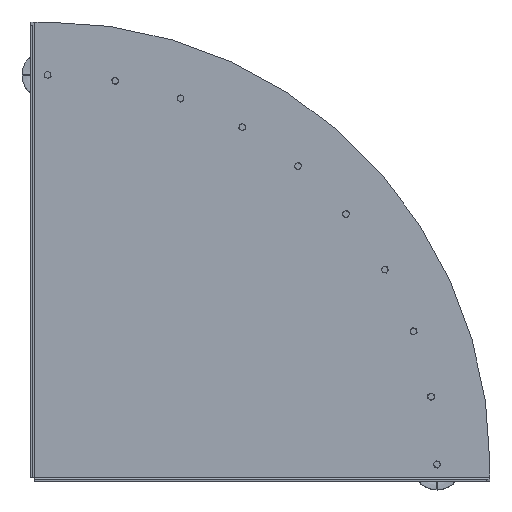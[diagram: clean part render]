
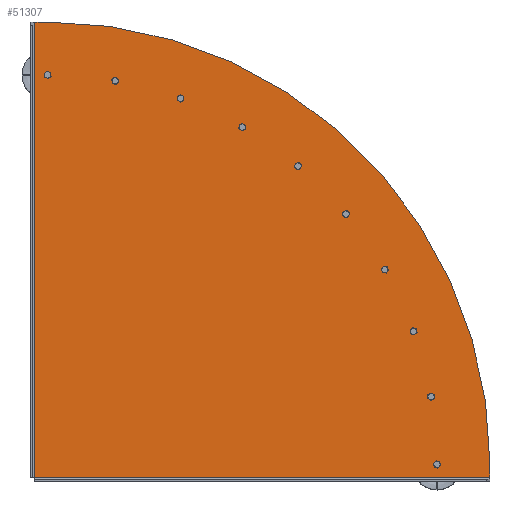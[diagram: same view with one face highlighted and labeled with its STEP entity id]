
A CAD part, top view. The second image highlights one B-rep face of the part: STEP entity #51307.
In plain terms, the highlighted planar face has unit normal (0, 0, 1).
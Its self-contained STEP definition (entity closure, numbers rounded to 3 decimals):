
#4380=LINE('',#74270,#6398);
#4393=LINE('',#74303,#6411);
#4401=LINE('',#74326,#6419);
#4402=LINE('',#74328,#6420);
#6398=VECTOR('',#61323,38.);
#6411=VECTOR('',#61362,1358.);
#6419=VECTOR('',#61394,1358.);
#6420=VECTOR('',#61397,38.);
#8418=PLANE('',#54947);
#10050=FACE_BOUND('',#14253,.T.);
#10051=FACE_BOUND('',#14254,.T.);
#10052=FACE_BOUND('',#14255,.T.);
#10053=FACE_BOUND('',#14256,.T.);
#10054=FACE_BOUND('',#14257,.T.);
#10055=FACE_BOUND('',#14258,.T.);
#10056=FACE_BOUND('',#14259,.T.);
#10057=FACE_BOUND('',#14260,.T.);
#10058=FACE_BOUND('',#14261,.T.);
#10059=FACE_BOUND('',#14262,.T.);
#10879=FACE_OUTER_BOUND('',#14252,.T.);
#14252=EDGE_LOOP('',(#34494,#34495,#34496,#34497,#34498));
#14253=EDGE_LOOP('',(#34499));
#14254=EDGE_LOOP('',(#34500));
#14255=EDGE_LOOP('',(#34501));
#14256=EDGE_LOOP('',(#34502));
#14257=EDGE_LOOP('',(#34503));
#14258=EDGE_LOOP('',(#34504));
#14259=EDGE_LOOP('',(#34505));
#14260=EDGE_LOOP('',(#34506));
#14261=EDGE_LOOP('',(#34507));
#14262=EDGE_LOOP('',(#34508));
#17571=CIRCLE('',#54889,6.5);
#17573=CIRCLE('',#54892,6.5);
#17575=CIRCLE('',#54895,6.5);
#17577=CIRCLE('',#54898,6.5);
#17579=CIRCLE('',#54901,6.5);
#17581=CIRCLE('',#54904,6.5);
#17583=CIRCLE('',#54907,6.5);
#17585=CIRCLE('',#54910,6.5);
#17587=CIRCLE('',#54913,6.5);
#17589=CIRCLE('',#54916,6.5);
#17590=CIRCLE('',#54918,1320.);
#20581=VERTEX_POINT('',#74209);
#20583=VERTEX_POINT('',#74214);
#20585=VERTEX_POINT('',#74219);
#20587=VERTEX_POINT('',#74224);
#20589=VERTEX_POINT('',#74229);
#20591=VERTEX_POINT('',#74234);
#20593=VERTEX_POINT('',#74239);
#20595=VERTEX_POINT('',#74244);
#20597=VERTEX_POINT('',#74249);
#20599=VERTEX_POINT('',#74254);
#20600=VERTEX_POINT('',#74257);
#20601=VERTEX_POINT('',#74258);
#20605=VERTEX_POINT('',#74268);
#20609=VERTEX_POINT('',#74283);
#20610=VERTEX_POINT('',#74288);
#25658=EDGE_CURVE('',#20581,#20581,#17571,.T.);
#25660=EDGE_CURVE('',#20583,#20583,#17573,.T.);
#25662=EDGE_CURVE('',#20585,#20585,#17575,.T.);
#25664=EDGE_CURVE('',#20587,#20587,#17577,.T.);
#25666=EDGE_CURVE('',#20589,#20589,#17579,.T.);
#25668=EDGE_CURVE('',#20591,#20591,#17581,.T.);
#25670=EDGE_CURVE('',#20593,#20593,#17583,.T.);
#25672=EDGE_CURVE('',#20595,#20595,#17585,.T.);
#25674=EDGE_CURVE('',#20597,#20597,#17587,.T.);
#25676=EDGE_CURVE('',#20599,#20599,#17589,.T.);
#25677=EDGE_CURVE('',#20600,#20601,#17590,.T.);
#25683=EDGE_CURVE('',#20605,#20601,#4380,.T.);
#25700=EDGE_CURVE('',#20610,#20609,#4393,.T.);
#25712=EDGE_CURVE('',#20605,#20610,#4401,.T.);
#25713=EDGE_CURVE('',#20600,#20609,#4402,.T.);
#34494=ORIENTED_EDGE('',*,*,#25677,.T.);
#34495=ORIENTED_EDGE('',*,*,#25683,.F.);
#34496=ORIENTED_EDGE('',*,*,#25712,.T.);
#34497=ORIENTED_EDGE('',*,*,#25700,.T.);
#34498=ORIENTED_EDGE('',*,*,#25713,.F.);
#34499=ORIENTED_EDGE('',*,*,#25658,.T.);
#34500=ORIENTED_EDGE('',*,*,#25660,.T.);
#34501=ORIENTED_EDGE('',*,*,#25662,.T.);
#34502=ORIENTED_EDGE('',*,*,#25664,.T.);
#34503=ORIENTED_EDGE('',*,*,#25666,.T.);
#34504=ORIENTED_EDGE('',*,*,#25668,.T.);
#34505=ORIENTED_EDGE('',*,*,#25670,.T.);
#34506=ORIENTED_EDGE('',*,*,#25672,.T.);
#34507=ORIENTED_EDGE('',*,*,#25674,.T.);
#34508=ORIENTED_EDGE('',*,*,#25676,.T.);
#51307=ADVANCED_FACE('',(#10879,#10050,#10051,#10052,#10053,#10054,#10055,
#10056,#10057,#10058,#10059),#8418,.T.);
#54889=AXIS2_PLACEMENT_3D('',#74210,#61255,#61256);
#54892=AXIS2_PLACEMENT_3D('',#74215,#61261,#61262);
#54895=AXIS2_PLACEMENT_3D('',#74220,#61267,#61268);
#54898=AXIS2_PLACEMENT_3D('',#74225,#61273,#61274);
#54901=AXIS2_PLACEMENT_3D('',#74230,#61279,#61280);
#54904=AXIS2_PLACEMENT_3D('',#74235,#61285,#61286);
#54907=AXIS2_PLACEMENT_3D('',#74240,#61291,#61292);
#54910=AXIS2_PLACEMENT_3D('',#74245,#61297,#61298);
#54913=AXIS2_PLACEMENT_3D('',#74250,#61303,#61304);
#54916=AXIS2_PLACEMENT_3D('',#74255,#61309,#61310);
#54918=AXIS2_PLACEMENT_3D('',#74259,#61313,#61314);
#54947=AXIS2_PLACEMENT_3D('',#74329,#61398,#61399);
#61255=DIRECTION('center_axis',(0.,0.,-1.));
#61256=DIRECTION('ref_axis',(1.,0.,0.));
#61261=DIRECTION('center_axis',(0.,0.,-1.));
#61262=DIRECTION('ref_axis',(1.,0.,0.));
#61267=DIRECTION('center_axis',(0.,0.,-1.));
#61268=DIRECTION('ref_axis',(1.,0.,0.));
#61273=DIRECTION('center_axis',(0.,0.,-1.));
#61274=DIRECTION('ref_axis',(1.,0.,0.));
#61279=DIRECTION('center_axis',(0.,0.,-1.));
#61280=DIRECTION('ref_axis',(1.,0.,0.));
#61285=DIRECTION('center_axis',(0.,0.,-1.));
#61286=DIRECTION('ref_axis',(1.,0.,0.));
#61291=DIRECTION('center_axis',(0.,0.,-1.));
#61292=DIRECTION('ref_axis',(1.,0.,0.));
#61297=DIRECTION('center_axis',(0.,0.,-1.));
#61298=DIRECTION('ref_axis',(1.,0.,0.));
#61303=DIRECTION('center_axis',(0.,0.,-1.));
#61304=DIRECTION('ref_axis',(1.,0.,0.));
#61309=DIRECTION('center_axis',(0.,0.,-1.));
#61310=DIRECTION('ref_axis',(1.,0.,0.));
#61313=DIRECTION('center_axis',(0.,0.,1.));
#61314=DIRECTION('ref_axis',(-1.,0.,0.));
#61323=DIRECTION('',(1.,0.,0.));
#61362=DIRECTION('',(1.,0.,0.));
#61394=DIRECTION('',(0.,-1.,0.));
#61397=DIRECTION('',(0.,-1.,0.));
#61398=DIRECTION('center_axis',(0.,0.,1.));
#61399=DIRECTION('ref_axis',(1.,0.,0.));
#74209=CARTESIAN_POINT('',(1200.847,251.779,6.));
#74210=CARTESIAN_POINT('Origin',(1194.347,251.779,6.));
#74214=CARTESIAN_POINT('',(1062.822,631.,6.));
#74215=CARTESIAN_POINT('Origin',(1056.322,631.,6.));
#74219=CARTESIAN_POINT('',(803.419,940.144,6.));
#74220=CARTESIAN_POINT('Origin',(796.919,940.144,6.));
#74224=CARTESIAN_POINT('',(453.927,1141.923,6.));
#74225=CARTESIAN_POINT('Origin',(447.427,1141.923,6.));
#74229=CARTESIAN_POINT('',(56.5,1212.,6.));
#74230=CARTESIAN_POINT('Origin',(50.,1212.,6.));
#74234=CARTESIAN_POINT('',(258.279,1194.347,6.));
#74235=CARTESIAN_POINT('Origin',(251.779,1194.347,6.));
#74239=CARTESIAN_POINT('',(637.5,1056.322,6.));
#74240=CARTESIAN_POINT('Origin',(631.,1056.322,6.));
#74244=CARTESIAN_POINT('',(946.644,796.919,6.));
#74245=CARTESIAN_POINT('Origin',(940.144,796.919,6.));
#74249=CARTESIAN_POINT('',(1148.423,447.427,6.));
#74250=CARTESIAN_POINT('Origin',(1141.923,447.427,6.));
#74254=CARTESIAN_POINT('',(1218.5,50.,6.));
#74255=CARTESIAN_POINT('Origin',(1212.,50.,6.));
#74257=CARTESIAN_POINT('',(1370.,50.,6.));
#74258=CARTESIAN_POINT('',(50.,1370.,6.));
#74259=CARTESIAN_POINT('Origin',(50.,50.,6.));
#74268=CARTESIAN_POINT('',(12.,1370.,6.));
#74270=CARTESIAN_POINT('',(1370.,1370.,6.));
#74283=CARTESIAN_POINT('',(1370.,12.,6.));
#74288=CARTESIAN_POINT('',(12.,12.,6.));
#74303=CARTESIAN_POINT('',(1027.5,12.,6.));
#74326=CARTESIAN_POINT('',(12.,348.5,6.));
#74328=CARTESIAN_POINT('',(1370.,0.,6.));
#74329=CARTESIAN_POINT('Origin',(685.,685.,6.));
